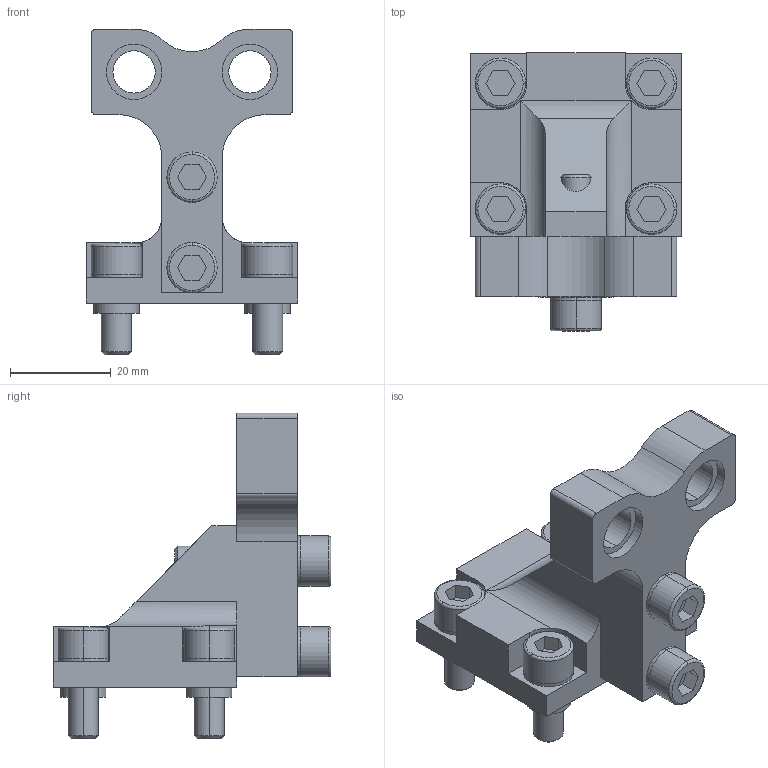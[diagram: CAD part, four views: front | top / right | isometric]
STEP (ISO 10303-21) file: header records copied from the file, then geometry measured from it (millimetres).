
FILE_DESCRIPTION (( 'STEP AP214' ), '1' );
FILE_NAME ('867.1-42-M10-Z-NC.step', '2023-08-01T13:22:26', ( '' ), ( '' ), 'SwSTEP 2.0', 'SolidWorks 2022', '' );
FILE_SCHEMA (( 'AUTOMOTIVE_DESIGN' ));
Length unit declared in the file: millimetre
Products named in the file (1): 867.1-42-M10-Z-NC
Bounding box: 42 x 55.2 x 64.7 mm (x, y, z)
Volume: 34281.9 mm3; surface area: 12934.9 mm2
Topology: 1 solids, 3 shells, 200 faces, 469 edges, 306 vertices
Faces by surface type: plane 102, cylinder 77, torus 12, cone 9
Entity records: 7280 total; most frequent: DIRECTION 1044, CARTESIAN_POINT 1015, ORIENTED_EDGE 938, EDGE_CURVE 469, AXIS2_PLACEMENT_3D 383, VERTEX_POINT 306, LINE 278, VECTOR 278
